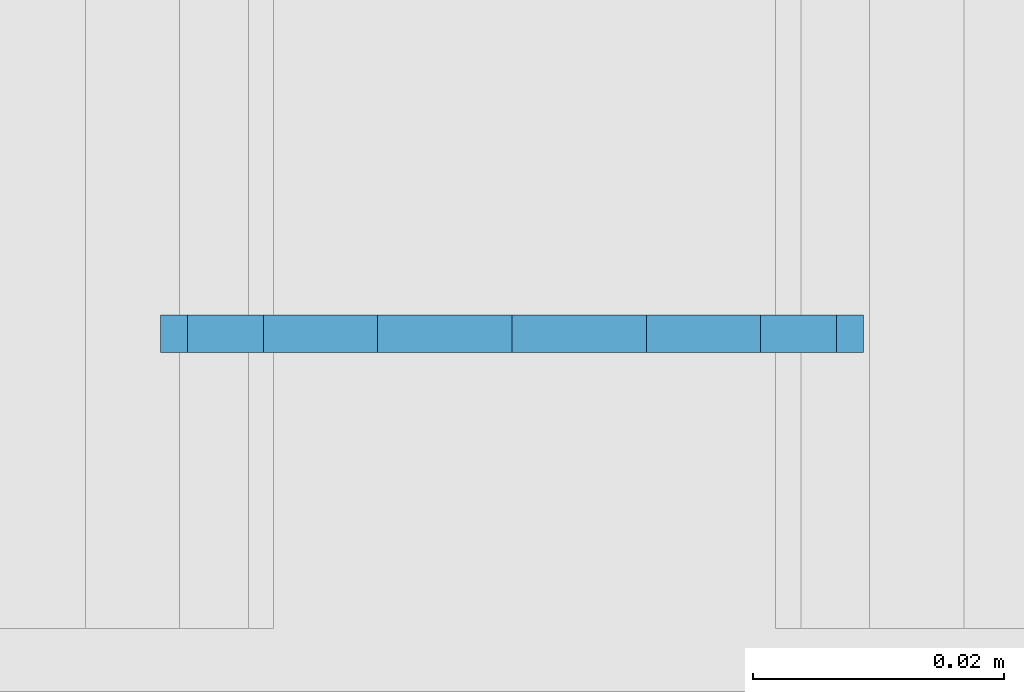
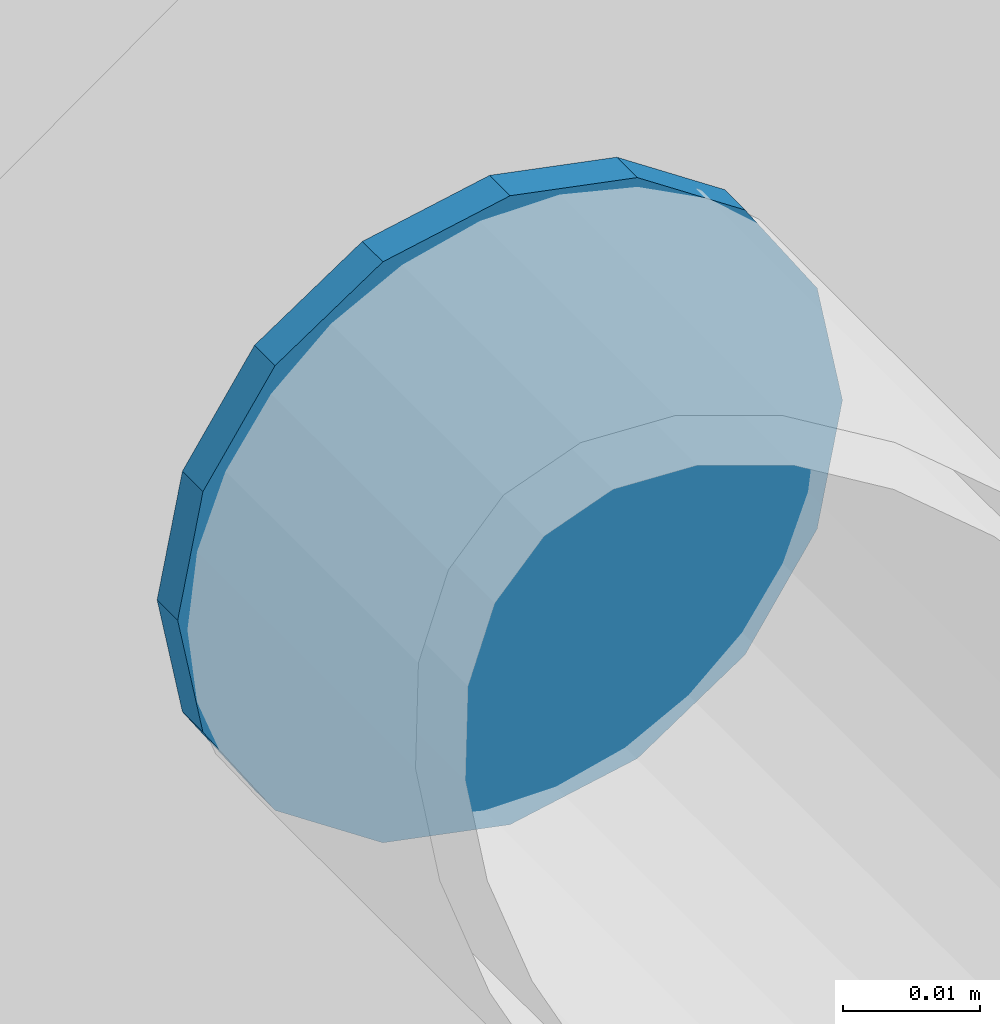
# One storey, part 59 of 230: 1 beam.
"""IFC4X3_ADD2 building model written with IfcOpenShell, lengths in millimetres."""

from ifc_helpers import new_model, si_unit, direction, frame, origin_with_axes, place, context, subcontext, project, spatial, indexed_curve, outline, extrude, material, element, save


model = new_model("IFC4X3_ADD2")

# Units and contexts
model_context = context("Model", 3, precision=1e-05, world=origin_with_axes(), true_north=direction((0.0, 1.0)))
body_context = subcontext(model_context, "Body", "Model", "MODEL_VIEW")
ifc_project = project(units=[si_unit("LENGTHUNIT", "METRE", prefix="MILLI"), si_unit("AREAUNIT", "SQUARE_METRE"), si_unit("VOLUMEUNIT", "CUBIC_METRE"), si_unit("PLANEANGLEUNIT", "RADIAN"), si_unit("TIMEUNIT", "SECOND"), si_unit("MASSUNIT", "GRAM")], contexts=[model_context])

# Site, building, storey
site_placement = place(None, origin_with_axes())
site = spatial("IfcSite", under=ifc_project, at=site_placement, Name="Site", CompositionType="ELEMENT")
building_placement = place(site_placement, origin_with_axes())
building = spatial("IfcBuilding", under=site, at=building_placement, Name="IFC Building Story")
storey_placement = place(building_placement, origin_with_axes())
storey = spatial("IfcBuildingStorey", under=building, at=storey_placement, Name="ETAGE 00 (0)", Elevation=0.0)

# Beam
ifc_material = material(Name="STEEL/Accessory 22919")
beam_placement = place(storey_placement, frame((39966.18899999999, 17999.99999999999, 1079.999999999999), z_axis=(0.0, -1.0, 0.0), x_axis=(-0.5555702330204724, 0.0, 0.8314696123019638)))
element("IfcBeam", 1, at=beam_placement, inside=storey, material=ifc_material, Name="TA4", ObjectType="D56", context=body_context, shape_type="SweptSolid", body=[
    extrude(outline(indexed_curve([(23.28114914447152, 15.55596652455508), (27.46198785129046, 5.462529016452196), (27.46198785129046, -5.462529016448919), (23.28114914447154, -15.55596652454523), (15.55596652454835, -23.28114914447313), (5.462529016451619, -27.46198785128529), (-5.462529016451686, -27.46198785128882), (-15.55596652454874, -23.28114914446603), (-23.2811491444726, -15.55596652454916), (-27.46198785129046, -5.462529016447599), (-27.46198785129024, 5.462529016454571), (-23.28114914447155, 15.55596652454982), (-15.55596652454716, 23.28114914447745), (-5.462529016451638, 27.46198785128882), (5.462529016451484, 27.46198785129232), (15.55596652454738, 23.28114914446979), (23.28114914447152, 15.55596652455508)])), origin_with_axes(), (0.0, 0.0, 1.0), 2.999999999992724),
])

save(model, "model.ifc")
